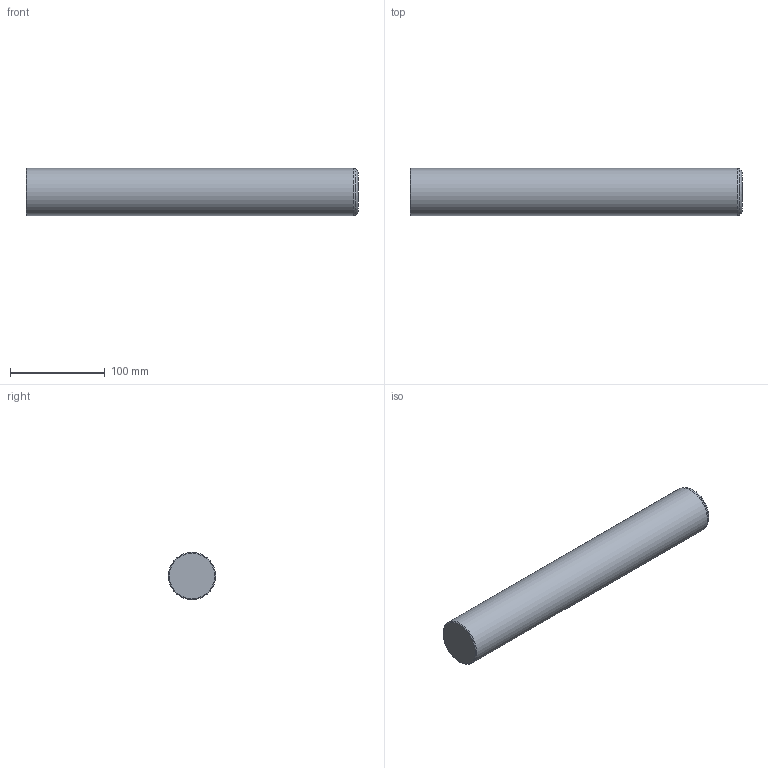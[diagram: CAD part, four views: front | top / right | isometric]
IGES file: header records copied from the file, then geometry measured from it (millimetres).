
Global section: file name: CIS50350.ipt; native system: Autodesk Inventor 2021; preprocessor: unknown; author: SM; date: 20211220.124707; units: millimetre
Bounding box: 350 x 50 x 50 mm (x, y, z)
Volume: 686326.9 mm3; surface area: 58465.5 mm2
Topology: 1 solids, 1 shells, 6 faces, 11 edges, 7 vertices
Faces by surface type: cone 2, plane 2, revolution 1, cylinder 1
Full cylindrical faces by diameter (mm): 50 x1
